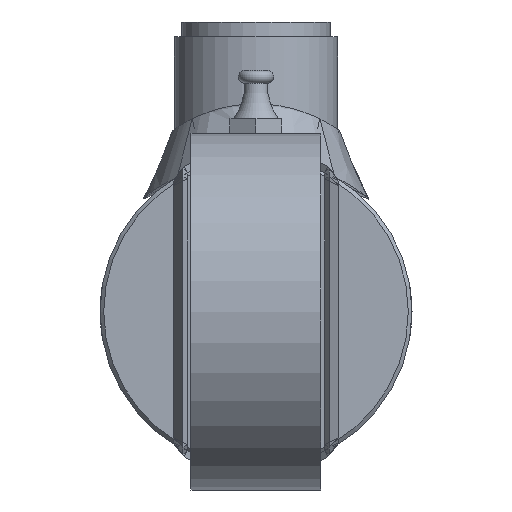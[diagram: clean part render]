
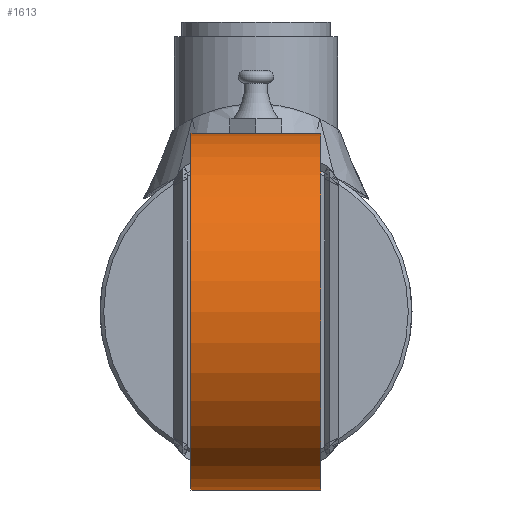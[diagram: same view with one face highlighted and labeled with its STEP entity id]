
A CAD part, left-side view. The second image highlights one B-rep face of the part: STEP entity #1613.
In plain terms, the highlighted cylindrical face has radius 24 mm (diameter 48 mm), a partial arc.
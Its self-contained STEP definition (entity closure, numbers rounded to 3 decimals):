
#1613 = ADVANCED_FACE( '', ( #3036 ), #3037, .T. );
#3036 = FACE_OUTER_BOUND( '', #8211, .T. );
#3037 = CYLINDRICAL_SURFACE( '', #8212, 24. );
#8211 = EDGE_LOOP( '', ( #11205, #11206, #11207, #11208 ) );
#8212 = AXIS2_PLACEMENT_3D( '', #11209, #11210, #11211 );
#11205 = ORIENTED_EDGE( '', *, *, #12419, .T. );
#11206 = ORIENTED_EDGE( '', *, *, #12290, .F. );
#11207 = ORIENTED_EDGE( '', *, *, #12595, .F. );
#11208 = ORIENTED_EDGE( '', *, *, #12212, .T. );
#11209 = CARTESIAN_POINT( '', ( 35., -8.75, 0. ) );
#11210 = DIRECTION( '', ( 0., -1., 0. ) );
#11211 = DIRECTION( '', ( 0., 0., 1. ) );
#12212 = EDGE_CURVE( '', #13650, #13653, #13655, .T. );
#12290 = EDGE_CURVE( '', #13766, #13762, #13768, .T. );
#12419 = EDGE_CURVE( '', #13653, #13762, #13937, .T. );
#12595 = EDGE_CURVE( '', #13650, #13766, #14160, .T. );
#13650 = VERTEX_POINT( '', #16255 );
#13653 = VERTEX_POINT( '', #16260 );
#13655 = LINE( '', #16263, #16264 );
#13762 = VERTEX_POINT( '', #16601 );
#13766 = VERTEX_POINT( '', #16607 );
#13768 = LINE( '', #16610, #16611 );
#13937 = CIRCLE( '', #17065, 24. );
#14160 = CIRCLE( '', #17771, 24. );
#16255 = CARTESIAN_POINT( '', ( 35., -8.75, -24. ) );
#16260 = CARTESIAN_POINT( '', ( 35., 8.75, -24. ) );
#16263 = CARTESIAN_POINT( '', ( 35., -8.75, -24. ) );
#16264 = VECTOR( '', #18475, 1000. );
#16601 = CARTESIAN_POINT( '', ( 35., 8.75, 24. ) );
#16607 = CARTESIAN_POINT( '', ( 35., -8.75, 24. ) );
#16610 = CARTESIAN_POINT( '', ( 35., -8.75, 24. ) );
#16611 = VECTOR( '', #18538, 1000. );
#17065 = AXIS2_PLACEMENT_3D( '', #18602, #18603, #18604 );
#17771 = AXIS2_PLACEMENT_3D( '', #18715, #18716, #18717 );
#18475 = DIRECTION( '', ( 0., 1., 0. ) );
#18538 = DIRECTION( '', ( 0., 1., 0. ) );
#18602 = CARTESIAN_POINT( '', ( 35., 8.75, 0. ) );
#18603 = DIRECTION( '', ( 0., -1., 0. ) );
#18604 = DIRECTION( '', ( -1., 0., 0. ) );
#18715 = CARTESIAN_POINT( '', ( 35., -8.75, 0. ) );
#18716 = DIRECTION( '', ( 0., -1., 0. ) );
#18717 = DIRECTION( '', ( -1., 0., 0. ) );
